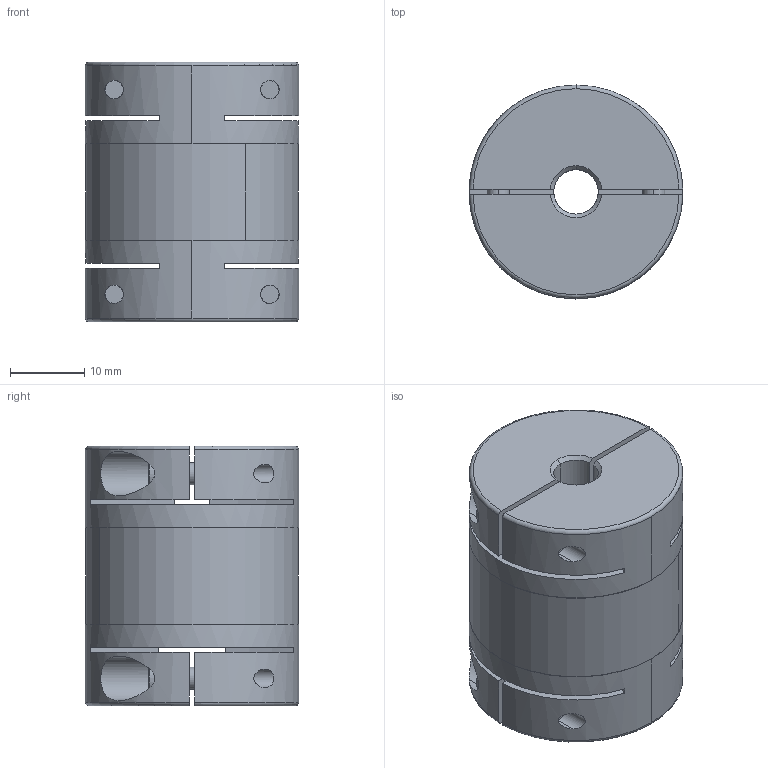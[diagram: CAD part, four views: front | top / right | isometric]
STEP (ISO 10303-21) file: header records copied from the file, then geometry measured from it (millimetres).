
FILE_DESCRIPTION (( 'STEP AP203' ), '1' );
FILE_NAME ('SHR-29C-6X10_203.STEP', '2013-05-19T01:58:33', ( 'Z77' ), ( '' ), 'SwSTEP 2.0', 'SolidWorks 2012', '' );
FILE_SCHEMA (( 'CONFIG_CONTROL_DESIGN' ));
Length unit declared in the file: millimetre
Products named in the file (1): SHR-29C-6X10_203
Bounding box: 28.8 x 28.8 x 35 mm (x, y, z)
Volume: 18864.8 mm3; surface area: 8688.1 mm2
Topology: 1 solids, 1 shells, 227 faces, 530 edges, 319 vertices
Faces by surface type: plane 92, cylinder 76, torus 30, cone 29
Entity records: 6950 total; most frequent: CARTESIAN_POINT 1573, DIRECTION 1199, ORIENTED_EDGE 1044, EDGE_CURVE 522, AXIS2_PLACEMENT_3D 481, VERTEX_POINT 319, EDGE_LOOP 259, CIRCLE 253
